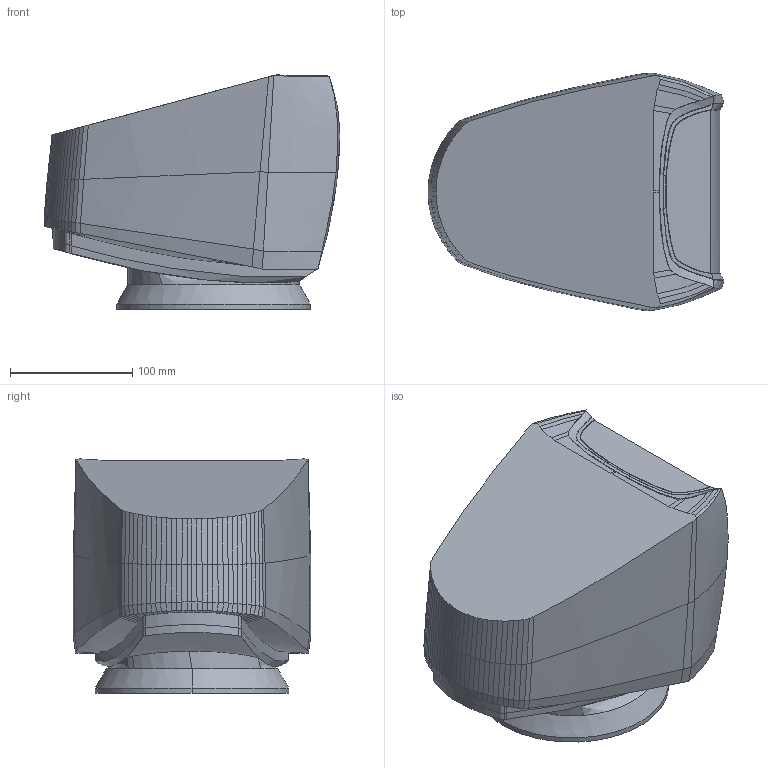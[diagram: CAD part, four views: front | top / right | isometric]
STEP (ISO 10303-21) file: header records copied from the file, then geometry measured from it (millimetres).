
FILE_DESCRIPTION(/* description */ (''),/* implementation_level */ '2;1');
FILE_NAME(/* name */ 'MARINCO',/* time_stamp */ '2022-11-07T09:33:29+03:00',/* author */ (''),/* organization */ (''),/* preprocessor_version */ 'ST-DEVELOPER v16.5',/* originating_system */ 'Rhino 7.14',/* authorisation */ '');
FILE_SCHEMA (('AUTOMOTIVE_DESIGN'));
Length unit declared in the file: millimetre
Products named in the file (1): Document
Bounding box: 241.62 x 194.2 x 191.45 mm (x, y, z)
Surface area: 201738.9 mm2 (no closed solid volume)
Topology: 0 solids, 4 shells, 448 faces, 1031 edges, 582 vertices
Faces by surface type: bspline 448
Entity records: 62129 total; most frequent: CARTESIAN_POINT 49140, B_SPLINE_CURVE_WITH_KNOTS 2769, ORIENTED_EDGE 1932, PCURVE 1932, DEFINITIONAL_REPRESENTATION 1932, SURFACE_CURVE 1029, EDGE_CURVE 1029, VERTEX_POINT 582
